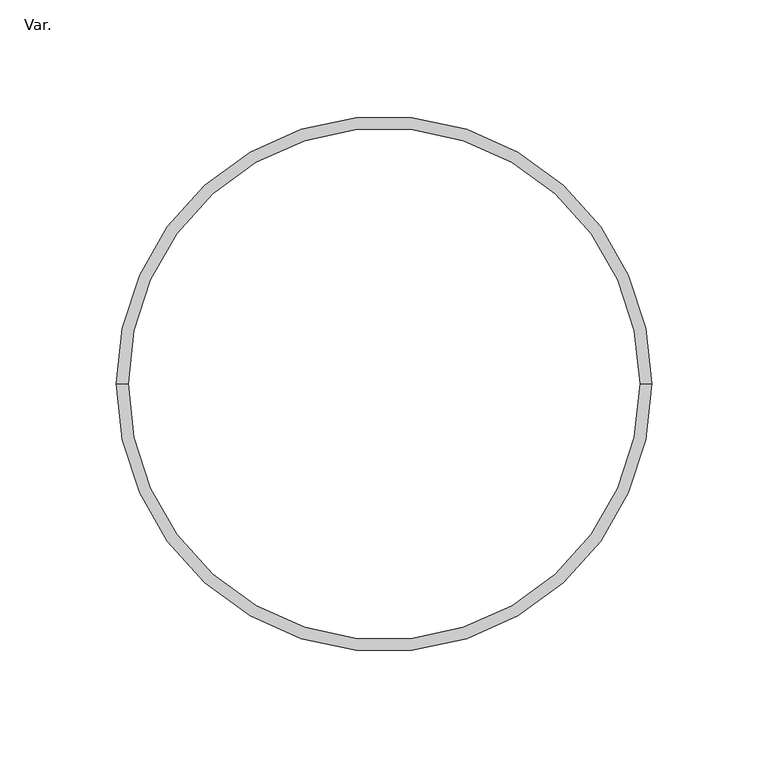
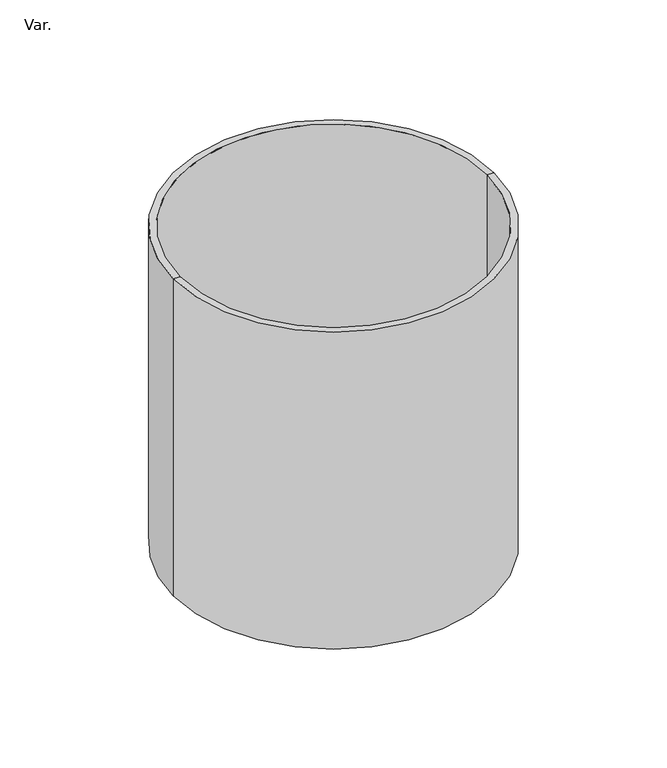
"""IFC4 building model written with IfcOpenShell, lengths in millimetres: pipe fitting geometry, PlastigamaWavin_Unionesdetubería_NovafortCauchoparaPerforarCajas : Var.."""

from ifc_helpers import new_model, si_unit, frame, origin, place, context, project, spatial, polyline, circle_curve, source, transform, mapped, element, save
from ifc_brep_helpers import plane_surface, cylinder_surface, revolved_surface, advanced_brep


def var_ff645995(model_context):
    return source(origin(), model_context, "Body", "AdvancedBrep", [
        advanced_brep(
        [(110.0, 0.0, 130.0), (-110.0, 0.0, 130.0), (-110.0, 0.0, -110.0), (110.0, 0.0, -110.0), (115.0, 0.0, 130.0), (-115.0, 0.0, 130.0), (115.0, 0.0, -110.0), (-115.0, 0.0, -110.0)],
        [
            (0, 1, circle_curve(frame((0.0, 0.0, 130.0), z_axis=(0.0, 0.0, 1.0), x_axis=(-1.0, 0.0, 0.0)), 110.0)),
            (1, 2),
            (2, 3, circle_curve(frame((0.0, 0.0, -110.0), z_axis=(0.0, 0.0, -1.0), x_axis=(-1.0, 0.0, 0.0)), 110.0)),
            (3, 0),
            (1, 0, circle_curve(frame((0.0, 0.0, 130.0), z_axis=(0.0, 0.0, 1.0), x_axis=(-1.0, 0.0, 0.0)), 110.0)),
            (3, 2, circle_curve(frame((0.0, 0.0, -110.0), z_axis=(0.0, 0.0, -1.0), x_axis=(-1.0, 0.0, 0.0)), 110.0)),
            (4, 5, circle_curve(frame((0.0, 0.0, 130.0), z_axis=(0.0, 0.0, 1.0), x_axis=(-1.0, 0.0, 0.0)), 115.0)),
            (5, 1),
            (0, 4),
            (5, 4, circle_curve(frame((0.0, 0.0, 130.0), z_axis=(0.0, 0.0, 1.0), x_axis=(-1.0, 0.0, 0.0)), 115.0)),
            (6, 7, circle_curve(frame((0.0, 0.0, -110.0), z_axis=(0.0, 0.0, 1.0), x_axis=(-1.0, 0.0, 0.0)), 115.0)),
            (7, 5),
            (4, 6),
            (7, 6, circle_curve(frame((0.0, 0.0, -110.0), z_axis=(0.0, 0.0, 1.0), x_axis=(-1.0, 0.0, 0.0)), 115.0)),
            (2, 7),
            (6, 3),
        ],
        [
            revolved_surface(polyline([(-110.0, 0.0, -110.0), (-110.0, 0.0, 130.0)]), (0.0, 0.0, 2222.3150031), (0.0, 0.0, -1.0)),
            plane_surface(frame((0.0, 0.0, 130.0), z_axis=(0.0, 0.0, 1.0), x_axis=(-1.0, 0.0, 0.0))),
            cylinder_surface(frame((0.0, 0.0, 2222.3150031), z_axis=(0.0, 0.0, -1.0), x_axis=(-1.0, 0.0, 0.0)), 115.0),
            plane_surface(frame((0.0, 0.0, -110.0), z_axis=(0.0, 0.0, -1.0), x_axis=(-1.0, 0.0, 0.0))),
        ],
        [
            (0, [[1, 2, 3, 4]]),
            (0, [[5, -4, 6, -2]]),
            (1, [[7, 8, -1, 9]]),
            (1, [[10, -9, -5, -8]]),
            (2, [[11, 12, -7, 13]]),
            (2, [[14, -13, -10, -12]]),
            (3, [[-3, 15, -11, 16]]),
            (3, [[-6, -16, -14, -15]]),
        ],
    ),
    ])


if __name__ == "__main__":
    model = new_model("IFC4")
    model_context = context("Model", 3, world=origin())
    ifc_project = project(units=[si_unit("LENGTHUNIT", "METRE", prefix="MILLI")], contexts=[model_context])
    site = spatial("IfcSite", under=ifc_project)
    building = spatial("IfcBuilding", under=site)
    placement = place(None, origin())
    var_shape = var_ff645995(model_context)
    element("IfcPipeFitting", 1, ObjectType="PlastigamaWavin_Unionesdetubería_NovafortCauchoparaPerforarCajas : Var.", at=placement, inside=building, context=model_context, shape_type="MappedRepresentation", body=[
        mapped(var_shape, transform((0.0, 0.0, 0.0), x_axis=(1.0, 0.0, 0.0), y_axis=(0.0, 1.0, 0.0), z_axis=(0.0, 0.0, 1.0))),
    ])
    save(model, "model.ifc")
